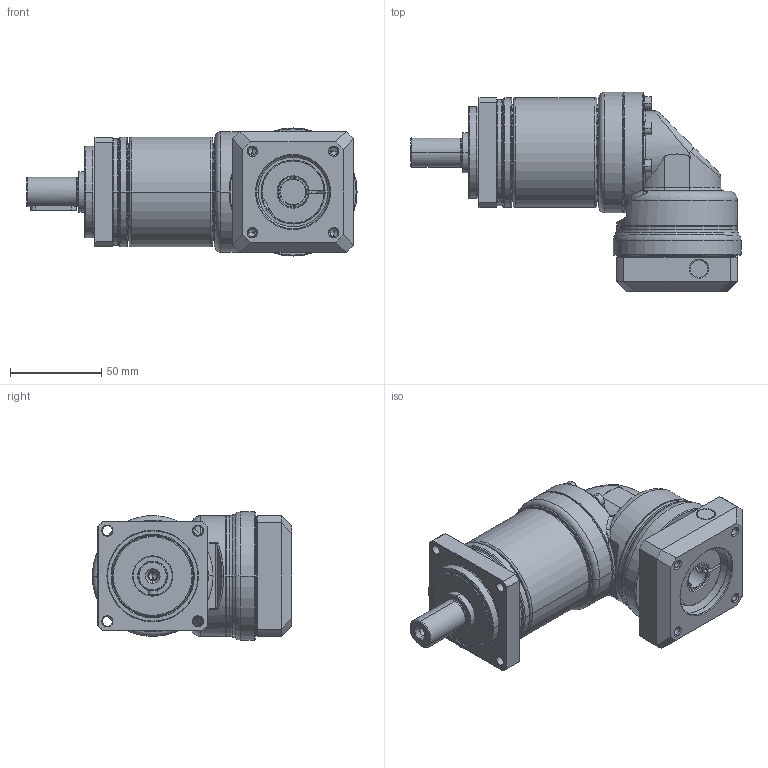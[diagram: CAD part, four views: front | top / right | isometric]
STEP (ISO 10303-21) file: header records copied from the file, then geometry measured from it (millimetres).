
FILE_DESCRIPTION((''),'2;1');
FILE_NAME('PA2R-060_2ST_14-P0411300101_ASM','2016-05-13T',('d01943'),(''),'PRO/ENGINEER BY PARAMETRIC TECHNOLOGY CORPORATION, 2008410','PRO/ENGINEER BY PARAMETRIC TECHNOLOGY CORPORATION, 2008410','');
FILE_SCHEMA(('CONFIG_CONTROL_DESIGN'));
Length unit declared in the file: millimetre
Products named in the file (12): P1327210001; P0251200001; P0350200001; P1349200001; P1017200001; P0713202001; P0503300005; P1350200201; P0411300101; P1702300001; 2111B104020; PA2R-060_2ST_14-P0411300101_ASM
Assembly tree (16 placements, depth 2):
  PA2R-060_2ST_14-P0411300101_ASM
    P1327210001
    P0251200001
    P0350200001
    P1349200001
    P1017200001
    P0713202001
    P0503300005
    P1350200201
    P0411300101
    P1702300001
    2111B104020  x6
Bounding box: 180.5 x 109 x 70 mm (x, y, z)
Volume: 362616.2 mm3; surface area: 117254 mm2
Topology: 16 solids, 16 shells, 823 faces, 1804 edges, 1041 vertices
Faces by surface type: cylinder 248, cone 236, plane 203, torus 104, bspline 32
Entity records: 23705 total; most frequent: CARTESIAN_POINT 8935, DIRECTION 3281, ORIENTED_EDGE 2856, EDGE_CURVE 1428, AXIS2_PLACEMENT_3D 1383, VERTEX_POINT 841, EDGE_LOOP 745, CIRCLE 729
